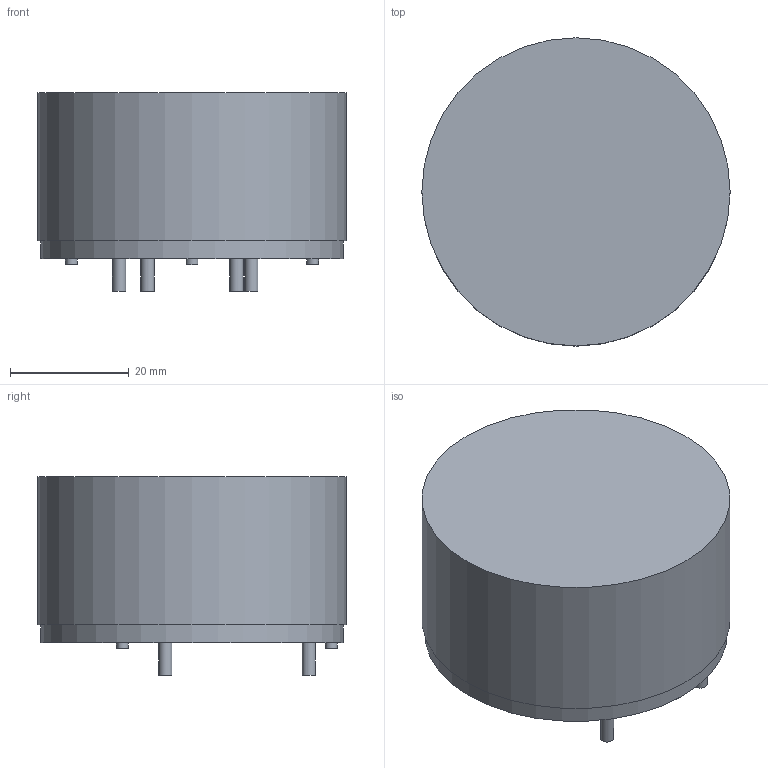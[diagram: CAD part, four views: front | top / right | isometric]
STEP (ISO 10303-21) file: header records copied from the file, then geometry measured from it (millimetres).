
FILE_DESCRIPTION(/* description */ (''),/* implementation_level */ '2;1');
FILE_NAME(/* name */ 'F:\Done\2016\多产品3D模拟\终版\新建文件夹\6123-X232\6123-X232 3D Model.stp',/* time_stamp */ '2016-07-12T14:33:55+08:00',/* author */ ('CN000562'),/* organization */ (''),/* preprocessor_version */ 'ST-DEVELOPER v16.5',/* originating_system */ 'Autodesk Inventor 2017',/* authorisation */ '');
FILE_SCHEMA (('AUTOMOTIVE_DESIGN { 1 0 10303 214 3 1 1 }'));
Length unit declared in the file: millimetre
Products named in the file (1): 6123-X316
Bounding box: 52 x 52 x 33.5 mm (x, y, z)
Volume: 59310.5 mm3; surface area: 8996.8 mm2
Topology: 1 solids, 1 shells, 22 faces, 34 edges, 22 vertices
Faces by surface type: cylinder 11, plane 11
Full cylindrical faces by diameter (mm): 2 x3, 2.24 x4, 52 x1
Entity records: 494 total; most frequent: DIRECTION 94, CARTESIAN_POINT 71, ORIENTED_EDGE 52, AXIS2_PLACEMENT_3D 45, EDGE_LOOP 38, EDGE_CURVE 26, FACE_OUTER_BOUND 22, CIRCLE 22
